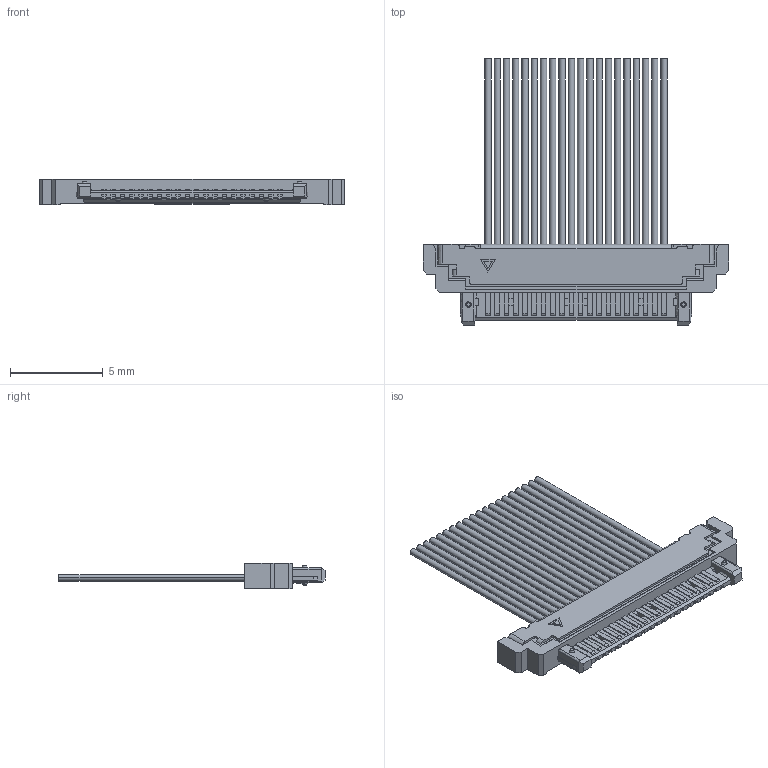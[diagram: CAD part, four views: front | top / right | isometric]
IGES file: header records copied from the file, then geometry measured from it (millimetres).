
Start section: Elysium IGES Interface
Global section: file name: 73H\\Honsha3\ko_gi\USERS\鸐壀\(嶌嬈拞)\SSL20-仩仩SB_3D\P3A798_SSL20-20SB.igs; native system: Creo Elements/Direct Modeling 20.2  28-Feb-2019; preprocessor: Creo Element/Direct IGES_3D V2.2; author: Unknown; organization: Unknown; date: 20220113.105205; units: millimetre
Bounding box: 16.5 x 14.35 x 1.4 mm (x, y, z)
Volume: 79.7 mm3; surface area: 406.5 mm2
Topology: 1 solids, 1 shells, 599 faces, 1609 edges, 1052 vertices
Faces by surface type: bspline 599
